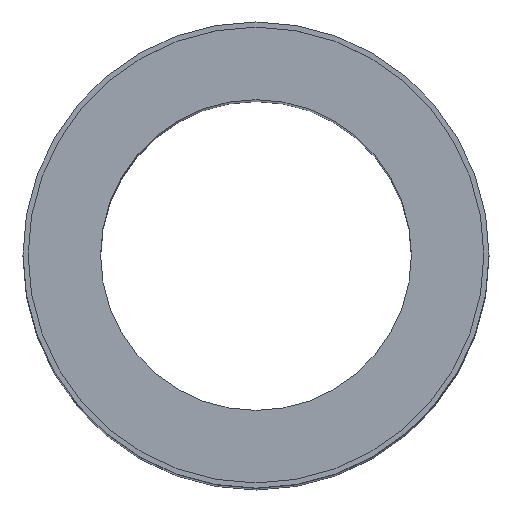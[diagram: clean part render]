
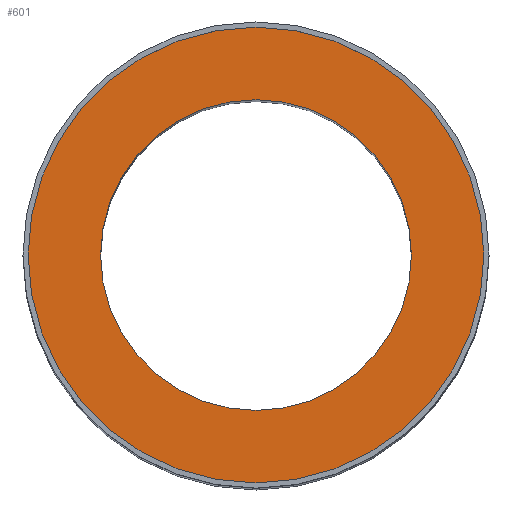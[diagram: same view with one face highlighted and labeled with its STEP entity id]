
A CAD part, top view. The second image highlights one B-rep face of the part: STEP entity #601.
In plain terms, the highlighted planar face has unit normal (0, 0, 1).
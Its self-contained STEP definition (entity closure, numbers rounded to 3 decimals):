
#135=CARTESIAN_POINT('',(-44.0,0.,210.0));
#136=VERTEX_POINT('',#135);
#152=CARTESIAN_POINT('',(44.0,0.,210.0));
#153=VERTEX_POINT('',#152);
#160=CARTESIAN_POINT('',(0.0,0.0,210.0));
#161=DIRECTION('',(0.0,0.0,-1.0));
#162=DIRECTION('',(-1.0,0.0,0.0));
#163=AXIS2_PLACEMENT_3D('',#160,#161,#162);
#164=CIRCLE('',#163,44.0);
#165=EDGE_CURVE('',#153,#136,#164,.T.);
#175=CARTESIAN_POINT('',(-30.0,0.,210.0));
#176=VERTEX_POINT('',#175);
#185=CARTESIAN_POINT('',(30.0,0.,210.0));
#186=VERTEX_POINT('',#185);
#187=CARTESIAN_POINT('',(0.0,0.0,210.0));
#188=DIRECTION('',(0.0,0.0,-1.0));
#189=DIRECTION('',(-1.0,0.0,0.0));
#190=AXIS2_PLACEMENT_3D('',#187,#188,#189);
#191=CIRCLE('',#190,30.0);
#192=EDGE_CURVE('',#186,#176,#191,.T.);
#552=CARTESIAN_POINT('',(0.0,0.0,210.0));
#553=DIRECTION('',(0.0,0.0,-1.0));
#554=DIRECTION('',(-1.0,0.0,0.0));
#555=AXIS2_PLACEMENT_3D('',#552,#553,#554);
#556=CIRCLE('',#555,30.0);
#557=EDGE_CURVE('',#176,#186,#556,.T.);
#582=CARTESIAN_POINT('',(0.0,0.0,210.0));
#583=DIRECTION('',(0.0,0.0,-1.0));
#584=DIRECTION('',(-1.0,0.0,0.0));
#585=AXIS2_PLACEMENT_3D('',#582,#583,#584);
#586=PLANE('',#585);
#587=ORIENTED_EDGE('',*,*,#165,.F.);
#588=CARTESIAN_POINT('',(0.0,0.0,210.0));
#589=DIRECTION('',(0.0,0.0,-1.0));
#590=DIRECTION('',(-1.0,0.0,0.0));
#591=AXIS2_PLACEMENT_3D('',#588,#589,#590);
#592=CIRCLE('',#591,44.0);
#593=EDGE_CURVE('',#136,#153,#592,.T.);
#594=ORIENTED_EDGE('',*,*,#593,.F.);
#595=EDGE_LOOP('',(#587,#594));
#596=FACE_OUTER_BOUND('',#595,.T.);
#597=ORIENTED_EDGE('',*,*,#192,.T.);
#598=ORIENTED_EDGE('',*,*,#557,.T.);
#599=EDGE_LOOP('',(#597,#598));
#600=FACE_BOUND('',#599,.T.);
#601=ADVANCED_FACE('',(#596,#600),#586,.F.);
